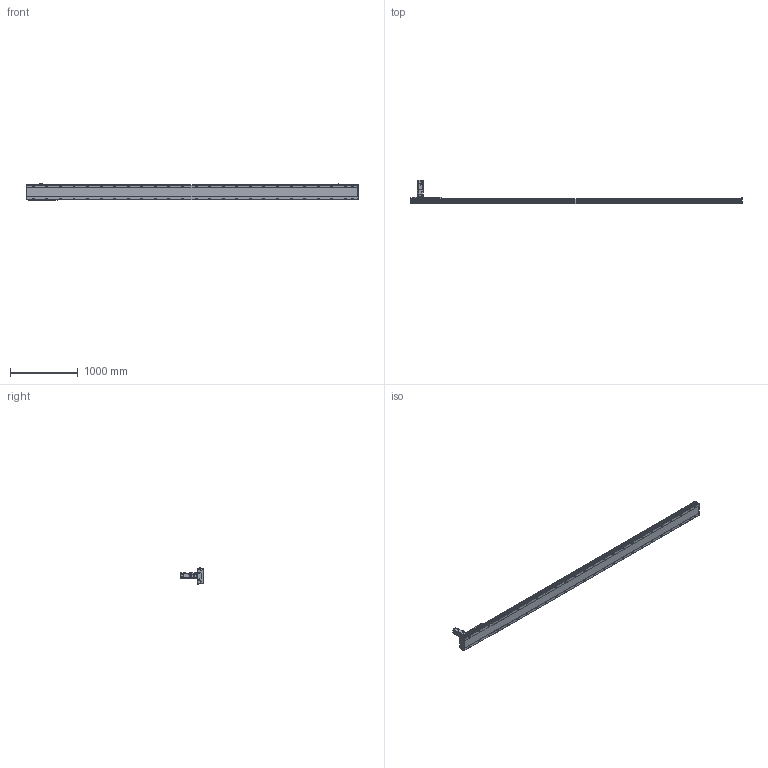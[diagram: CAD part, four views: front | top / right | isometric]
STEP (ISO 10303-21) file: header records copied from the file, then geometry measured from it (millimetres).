
FILE_DESCRIPTION(/* description */ ('STEP AP214'),/* implementation_level */ '2;1');
FILE_NAME(/* name */ 'SHS22A-L13-S4400-BC-T75-C1-N(0)',/* time_stamp */ '2022-06-15T02:28:50+02:00',/* author */ ('License CC BY-ND 4.0'),/* organization */ ('CADENAS'),/* preprocessor_version */ 'ST-DEVELOPER v18.102',/* originating_system */ 'PARTsolutions',/* authorisation */ ' ');
FILE_SCHEMA (('AUTOMOTIVE_DESIGN {1 0 10303 214 3 1 1}'));
Length unit declared in the file: millimetre
Products named in the file (7): SHS22A-L13-S4400-BC-T75-C1-N(0); PSC140-sensor; SHS22A-S4400_body2; T75-p1; SHS22A-S4400_body3; SHS22A-S4400_slider; SHS22A-L13-S4400-BC-T75-C1(0)_body
Assembly tree (13 placements, depth 2):
  SHS22A-L13-S4400-BC-T75-C1-N(0)
    PSC140-sensor  x3
    SHS22A-S4400_body2  x6
    T75-p1
    SHS22A-S4400_body3
    SHS22A-S4400_slider
    SHS22A-L13-S4400-BC-T75-C1(0)_body
Bounding box: 4894 x 350.8 x 238.4 mm (x, y, z)
Volume: 51954490.6 mm3; surface area: 5294545.6 mm2
Topology: 13 solids, 13 shells, 2001 faces, 5115 edges, 3346 vertices
Faces by surface type: plane 1380, cylinder 497, cone 115, torus 9
Full cylindrical faces by diameter (mm): 2.8 x3, 4.2 x2, 4.6 x3, 4.917 x4, 5 x4, 5.6 x24, 6 x31, 6.6 x24, 6.647 x8, 6.8 x9, 7.75 x6, 8 x3, 8.376 x50, 8.5 x50, 10 x4, 11 x4, 12 x24, 14 x50, 22 x1, 24.1 x1, 28 x1, 28.2 x1, 28.8 x1, 48.542 x1, 68 x1, 70 x1, 78 x1, 80 x2
Entity records: 34402 total; most frequent: CARTESIAN_POINT 6263, DIRECTION 5837, ORIENTED_EDGE 5160, EDGE_CURVE 2580, AXIS2_PLACEMENT_3D 2122, FACE_BOUND 1890, EDGE_LOOP 1889, VERTEX_POINT 1886
